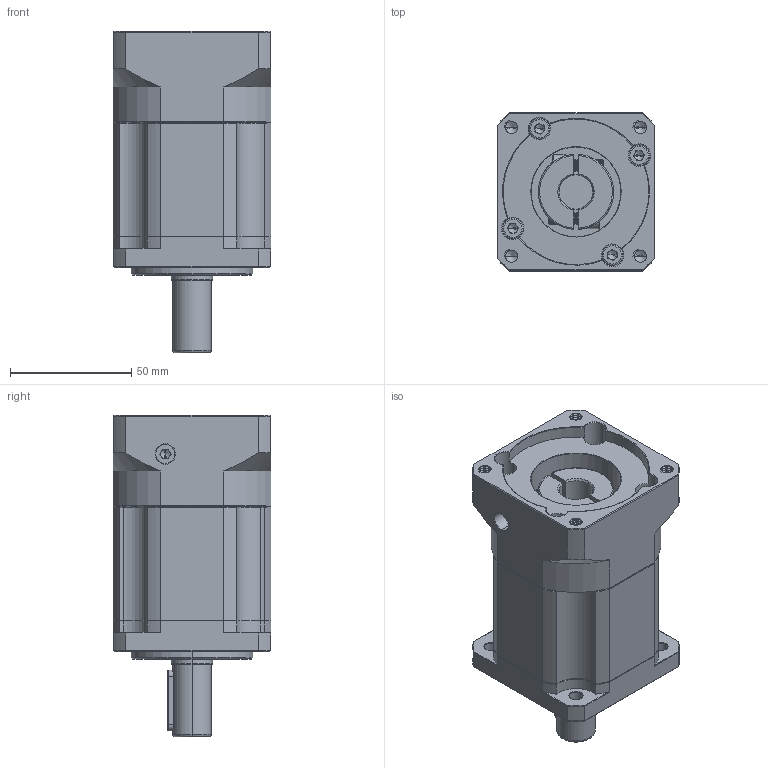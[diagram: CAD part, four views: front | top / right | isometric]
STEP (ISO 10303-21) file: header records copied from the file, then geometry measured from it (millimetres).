
FILE_DESCRIPTION (( 'STEP AP214' ), '1' );
FILE_NAME ('ZB060-D16-L2-P2-14-60-75-M6.step', '2023-08-16T07:06:38', ( '' ), ( '' ), 'SwSTEP 2.0', 'SolidWorks 2016', '' );
FILE_SCHEMA (( 'AUTOMOTIVE_DESIGN' ));
Length unit declared in the file: millimetre
Products named in the file (1): ZB060-D16-L2-P2-14-60-75-M6
Bounding box: 65 x 65 x 132.5 mm (x, y, z)
Volume: 326019.4 mm3; surface area: 59123.6 mm2
Topology: 6 solids, 6 shells, 2168 faces, 5843 edges, 3759 vertices
Faces by surface type: plane 1059, bspline 397, cylinder 392, cone 286, torus 34
Entity records: 117626 total; most frequent: CARTESIAN_POINT 42447, ORIENTED_EDGE 11626, DIRECTION 9186, EDGE_CURVE 5813, VERTEX_POINT 3759, LINE 3670, VECTOR 3670, AXIS2_PLACEMENT_3D 2758
